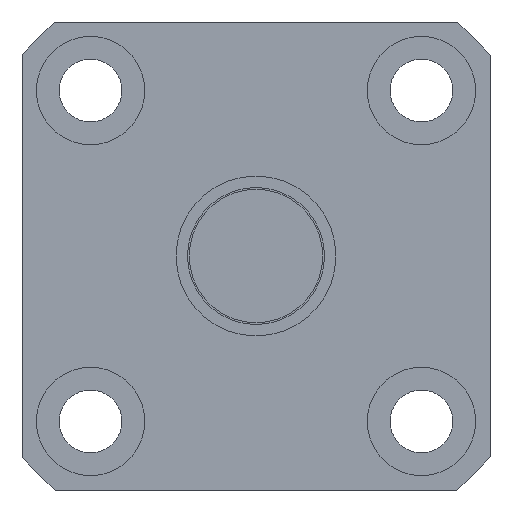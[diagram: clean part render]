
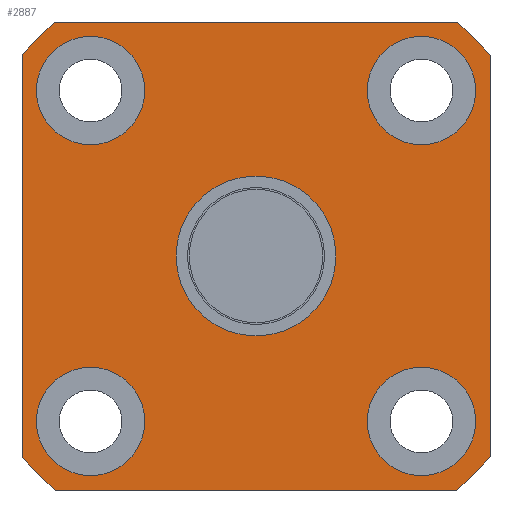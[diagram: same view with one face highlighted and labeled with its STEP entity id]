
A CAD part, left-side view. The second image highlights one B-rep face of the part: STEP entity #2887.
In plain terms, the highlighted planar face has unit normal (-1, 0, 0).
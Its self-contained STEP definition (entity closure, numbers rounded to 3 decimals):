
#479=CARTESIAN_POINT('',(194.618,19.246,-14.496));
#480=VERTEX_POINT('',#479);
#481=CARTESIAN_POINT('',(194.618,14.496,-14.496));
#482=DIRECTION('',(1.0,0.0,0.0));
#483=DIRECTION('',(0.0,1.0,0.0));
#484=AXIS2_PLACEMENT_3D('',#481,#482,#483);
#485=CIRCLE('',#484,4.75);
#486=EDGE_CURVE('',#480,#480,#485,.T.);
#547=CARTESIAN_POINT('',(194.618,-9.746,14.496));
#548=VERTEX_POINT('',#547);
#549=CARTESIAN_POINT('',(194.618,-14.496,14.496));
#550=DIRECTION('',(1.0,0.0,0.0));
#551=DIRECTION('',(0.0,1.0,0.0));
#552=AXIS2_PLACEMENT_3D('',#549,#550,#551);
#553=CIRCLE('',#552,4.75);
#554=EDGE_CURVE('',#548,#548,#553,.T.);
#615=CARTESIAN_POINT('',(194.618,19.246,14.496));
#616=VERTEX_POINT('',#615);
#617=CARTESIAN_POINT('',(194.618,14.496,14.496));
#618=DIRECTION('',(1.0,0.0,0.0));
#619=DIRECTION('',(0.0,1.0,0.0));
#620=AXIS2_PLACEMENT_3D('',#617,#618,#619);
#621=CIRCLE('',#620,4.75);
#622=EDGE_CURVE('',#616,#616,#621,.T.);
#683=CARTESIAN_POINT('',(194.618,-9.746,-14.496));
#684=VERTEX_POINT('',#683);
#685=CARTESIAN_POINT('',(194.618,-14.496,-14.496));
#686=DIRECTION('',(1.0,0.0,0.0));
#687=DIRECTION('',(0.0,1.0,0.0));
#688=AXIS2_PLACEMENT_3D('',#685,#686,#687);
#689=CIRCLE('',#688,4.75);
#690=EDGE_CURVE('',#684,#684,#689,.T.);
#2589=CARTESIAN_POINT('',(194.618,-20.5,-17.571));
#2590=VERTEX_POINT('',#2589);
#2597=CARTESIAN_POINT('',(194.618,-17.571,-20.5));
#2598=VERTEX_POINT('',#2597);
#2599=CARTESIAN_POINT('',(194.618,0.,0.0));
#2600=DIRECTION('',(1.0,0.0,0.0));
#2601=DIRECTION('',(0.0,1.0,0.0));
#2602=AXIS2_PLACEMENT_3D('',#2599,#2600,#2601);
#2603=CIRCLE('',#2602,27.0);
#2604=EDGE_CURVE('',#2590,#2598,#2603,.T.);
#2621=CARTESIAN_POINT('',(194.618,-20.5,17.571));
#2622=VERTEX_POINT('',#2621);
#2629=CARTESIAN_POINT('',(194.618,-20.5,17.571));
#2630=DIRECTION('',(0.0,0.0,-1.0));
#2631=VECTOR('',#2630,35.143);
#2632=LINE('',#2629,#2631);
#2633=EDGE_CURVE('',#2622,#2590,#2632,.T.);
#2645=CARTESIAN_POINT('',(194.618,-17.571,20.5));
#2646=VERTEX_POINT('',#2645);
#2653=CARTESIAN_POINT('',(194.618,0.,0.0));
#2654=DIRECTION('',(1.0,0.0,0.0));
#2655=DIRECTION('',(0.0,1.0,0.0));
#2656=AXIS2_PLACEMENT_3D('',#2653,#2654,#2655);
#2657=CIRCLE('',#2656,27.0);
#2658=EDGE_CURVE('',#2646,#2622,#2657,.T.);
#2670=CARTESIAN_POINT('',(194.618,17.571,20.5));
#2671=VERTEX_POINT('',#2670);
#2678=CARTESIAN_POINT('',(194.618,17.571,20.5));
#2679=DIRECTION('',(0.0,-1.0,0.0));
#2680=VECTOR('',#2679,35.143);
#2681=LINE('',#2678,#2680);
#2682=EDGE_CURVE('',#2671,#2646,#2681,.T.);
#2694=CARTESIAN_POINT('',(194.618,20.5,17.571));
#2695=VERTEX_POINT('',#2694);
#2702=CARTESIAN_POINT('',(194.618,0.,0.0));
#2703=DIRECTION('',(1.0,0.0,0.0));
#2704=DIRECTION('',(0.0,1.0,0.0));
#2705=AXIS2_PLACEMENT_3D('',#2702,#2703,#2704);
#2706=CIRCLE('',#2705,27.0);
#2707=EDGE_CURVE('',#2695,#2671,#2706,.T.);
#2719=CARTESIAN_POINT('',(194.618,20.5,-17.571));
#2720=VERTEX_POINT('',#2719);
#2727=CARTESIAN_POINT('',(194.618,20.5,-17.571));
#2728=DIRECTION('',(0.0,0.0,1.0));
#2729=VECTOR('',#2728,35.143);
#2730=LINE('',#2727,#2729);
#2731=EDGE_CURVE('',#2720,#2695,#2730,.T.);
#2743=CARTESIAN_POINT('',(194.618,17.571,-20.5));
#2744=VERTEX_POINT('',#2743);
#2751=CARTESIAN_POINT('',(194.618,0.,0.0));
#2752=DIRECTION('',(1.0,0.0,0.0));
#2753=DIRECTION('',(0.0,1.0,0.0));
#2754=AXIS2_PLACEMENT_3D('',#2751,#2752,#2753);
#2755=CIRCLE('',#2754,27.0);
#2756=EDGE_CURVE('',#2744,#2720,#2755,.T.);
#2769=CARTESIAN_POINT('',(194.618,-17.571,-20.5));
#2770=DIRECTION('',(0.0,1.0,0.0));
#2771=VECTOR('',#2770,35.143);
#2772=LINE('',#2769,#2771);
#2773=EDGE_CURVE('',#2598,#2744,#2772,.T.);
#2784=CARTESIAN_POINT('',(194.618,7.,0.0));
#2785=VERTEX_POINT('',#2784);
#2786=CARTESIAN_POINT('',(194.618,0.,0.0));
#2787=DIRECTION('',(1.0,0.0,0.0));
#2788=DIRECTION('',(0.0,1.0,0.0));
#2789=AXIS2_PLACEMENT_3D('',#2786,#2787,#2788);
#2790=CIRCLE('',#2789,7.);
#2791=EDGE_CURVE('',#2785,#2785,#2790,.T.);
#2857=CARTESIAN_POINT('',(194.618,11.,0.0));
#2858=DIRECTION('',(-1.0,0.0,0.0));
#2859=DIRECTION('',(0.0,0.0,1.0));
#2860=AXIS2_PLACEMENT_3D('',#2857,#2858,#2859);
#2861=PLANE('',#2860);
#2862=ORIENTED_EDGE('',*,*,#2682,.F.);
#2863=ORIENTED_EDGE('',*,*,#2707,.F.);
#2864=ORIENTED_EDGE('',*,*,#2731,.F.);
#2865=ORIENTED_EDGE('',*,*,#2756,.F.);
#2866=ORIENTED_EDGE('',*,*,#2773,.F.);
#2867=ORIENTED_EDGE('',*,*,#2604,.F.);
#2868=ORIENTED_EDGE('',*,*,#2633,.F.);
#2869=ORIENTED_EDGE('',*,*,#2658,.F.);
#2870=EDGE_LOOP('',(#2862,#2863,#2864,#2865,#2866,#2867,#2868,#2869));
#2871=FACE_OUTER_BOUND('',#2870,.T.);
#2872=ORIENTED_EDGE('',*,*,#486,.T.);
#2873=EDGE_LOOP('',(#2872));
#2874=FACE_BOUND('',#2873,.T.);
#2875=ORIENTED_EDGE('',*,*,#554,.T.);
#2876=EDGE_LOOP('',(#2875));
#2877=FACE_BOUND('',#2876,.T.);
#2878=ORIENTED_EDGE('',*,*,#622,.T.);
#2879=EDGE_LOOP('',(#2878));
#2880=FACE_BOUND('',#2879,.T.);
#2881=ORIENTED_EDGE('',*,*,#690,.T.);
#2882=EDGE_LOOP('',(#2881));
#2883=FACE_BOUND('',#2882,.T.);
#2884=ORIENTED_EDGE('',*,*,#2791,.T.);
#2885=EDGE_LOOP('',(#2884));
#2886=FACE_BOUND('',#2885,.T.);
#2887=ADVANCED_FACE('',(#2871,#2874,#2877,#2880,#2883,#2886),#2861,.T.);
